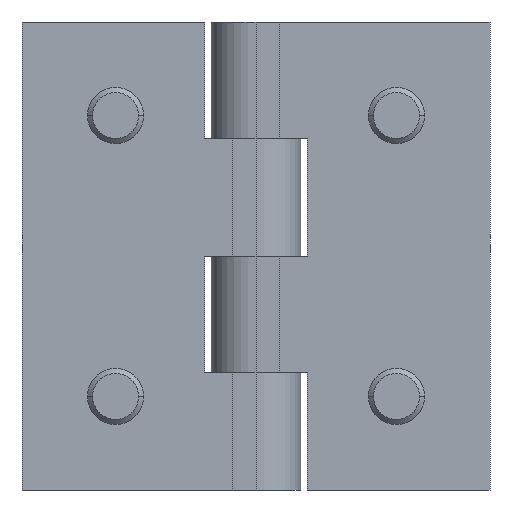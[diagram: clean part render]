
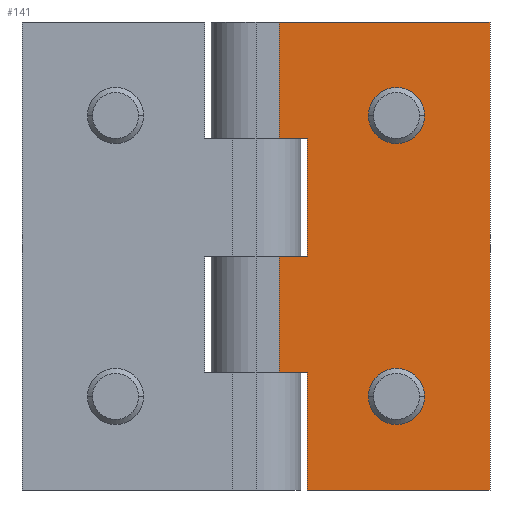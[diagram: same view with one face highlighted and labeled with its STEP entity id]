
A CAD part, front view. The second image highlights one B-rep face of the part: STEP entity #141.
In plain terms, the highlighted planar face has unit normal (0, -1, 0).
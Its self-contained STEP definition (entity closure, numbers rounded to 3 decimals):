
#141=ADVANCED_FACE('',(#245,#246,#247),#248,.T.);
#245=FACE_BOUND('',#422,.T.);
#246=FACE_BOUND('',#423,.T.);
#247=FACE_OUTER_BOUND('',#424,.T.);
#248=PLANE('',#425);
#422=EDGE_LOOP('',(#699,#700));
#423=EDGE_LOOP('',(#701,#702));
#424=EDGE_LOOP('',(#703,#704,#705,#706,#707,#708,#709,#710,#711,#712));
#425=AXIS2_PLACEMENT_3D('',#713,#714,#715);
#699=ORIENTED_EDGE('',*,*,#1250,.T.);
#700=ORIENTED_EDGE('',*,*,#1265,.T.);
#701=ORIENTED_EDGE('',*,*,#1243,.T.);
#702=ORIENTED_EDGE('',*,*,#1268,.T.);
#703=ORIENTED_EDGE('',*,*,#1272,.T.);
#704=ORIENTED_EDGE('',*,*,#1293,.T.);
#705=ORIENTED_EDGE('',*,*,#1290,.T.);
#706=ORIENTED_EDGE('',*,*,#1294,.F.);
#707=ORIENTED_EDGE('',*,*,#1295,.T.);
#708=ORIENTED_EDGE('',*,*,#1296,.T.);
#709=ORIENTED_EDGE('',*,*,#1297,.T.);
#710=ORIENTED_EDGE('',*,*,#1298,.T.);
#711=ORIENTED_EDGE('',*,*,#1299,.T.);
#712=ORIENTED_EDGE('',*,*,#1300,.F.);
#713=CARTESIAN_POINT('',(25.0,0.0,0.0));
#714=DIRECTION('',(0.0,-1.0,0.0));
#715=DIRECTION('',(1.0,0.0,0.0));
#1243=EDGE_CURVE('',#1462,#1460,#1463,.T.);
#1250=EDGE_CURVE('',#1475,#1473,#1476,.T.);
#1265=EDGE_CURVE('',#1473,#1475,#1499,.T.);
#1268=EDGE_CURVE('',#1460,#1462,#1502,.T.);
#1272=EDGE_CURVE('',#1509,#1507,#1510,.T.);
#1290=EDGE_CURVE('',#1545,#1543,#1546,.T.);
#1293=EDGE_CURVE('',#1507,#1545,#1549,.T.);
#1294=EDGE_CURVE('',#1550,#1543,#1551,.T.);
#1295=EDGE_CURVE('',#1550,#1552,#1553,.T.);
#1296=EDGE_CURVE('',#1552,#1554,#1555,.T.);
#1297=EDGE_CURVE('',#1554,#1556,#1557,.T.);
#1298=EDGE_CURVE('',#1556,#1558,#1559,.T.);
#1299=EDGE_CURVE('',#1558,#1560,#1561,.T.);
#1300=EDGE_CURVE('',#1509,#1560,#1562,.T.);
#1460=VERTEX_POINT('',#1816);
#1462=VERTEX_POINT('',#1819);
#1463=CIRCLE('',#1820,3.0);
#1473=VERTEX_POINT('',#1833);
#1475=VERTEX_POINT('',#1836);
#1476=CIRCLE('',#1837,3.0);
#1499=CIRCLE('',#1865,3.0);
#1502=CIRCLE('',#1868,3.0);
#1507=VERTEX_POINT('',#1874);
#1509=VERTEX_POINT('',#1877);
#1510=LINE('',#1878,#1879);
#1543=VERTEX_POINT('',#1926);
#1545=VERTEX_POINT('',#1929);
#1546=LINE('',#1930,#1931);
#1549=LINE('',#1936,#1937);
#1550=VERTEX_POINT('',#1938);
#1551=LINE('',#1939,#1940);
#1552=VERTEX_POINT('',#1941);
#1553=LINE('',#1942,#1943);
#1554=VERTEX_POINT('',#1944);
#1555=LINE('',#1945,#1946);
#1556=VERTEX_POINT('',#1947);
#1557=LINE('',#1948,#1949);
#1558=VERTEX_POINT('',#1950);
#1559=LINE('',#1951,#1952);
#1560=VERTEX_POINT('',#1953);
#1561=LINE('',#1954,#1955);
#1562=LINE('',#1956,#1957);
#1816=CARTESIAN_POINT('',(12.0,0.0,10.0));
#1819=CARTESIAN_POINT('',(18.0,0.,10.0));
#1820=AXIS2_PLACEMENT_3D('',#2335,#2336,#2337);
#1833=CARTESIAN_POINT('',(12.0,0.,40.0));
#1836=CARTESIAN_POINT('',(18.0,0.,40.0));
#1837=AXIS2_PLACEMENT_3D('',#2348,#2349,#2350);
#1865=AXIS2_PLACEMENT_3D('',#2383,#2384,#2385);
#1868=AXIS2_PLACEMENT_3D('',#2392,#2393,#2394);
#1874=CARTESIAN_POINT('',(5.5,0.0,37.5));
#1877=CARTESIAN_POINT('',(2.5,0.0,37.5));
#1878=CARTESIAN_POINT('',(9.0,0.0,37.5));
#1879=VECTOR('',#2400,1.0);
#1926=CARTESIAN_POINT('',(2.5,0.0,25.0));
#1929=CARTESIAN_POINT('',(5.5,0.0,25.0));
#1930=CARTESIAN_POINT('',(9.0,0.0,25.0));
#1931=VECTOR('',#2422,1.0);
#1936=CARTESIAN_POINT('',(5.5,0.0,15.625));
#1937=VECTOR('',#2425,1.0);
#1938=CARTESIAN_POINT('',(2.5,0.0,12.5));
#1939=CARTESIAN_POINT('',(2.5,0.0,0.0));
#1940=VECTOR('',#2426,1.0);
#1941=CARTESIAN_POINT('',(5.5,0.0,12.5));
#1942=CARTESIAN_POINT('',(9.0,0.0,12.5));
#1943=VECTOR('',#2427,1.0);
#1944=CARTESIAN_POINT('',(5.5,0.0,0.0));
#1945=CARTESIAN_POINT('',(5.5,0.0,3.125));
#1946=VECTOR('',#2428,1.0);
#1947=CARTESIAN_POINT('',(25.0,0.0,0.0));
#1948=CARTESIAN_POINT('',(2.5,0.0,0.0));
#1949=VECTOR('',#2429,1.0);
#1950=CARTESIAN_POINT('',(25.0,0.0,50.0));
#1951=CARTESIAN_POINT('',(25.0,0.0,0.0));
#1952=VECTOR('',#2430,1.0);
#1953=CARTESIAN_POINT('',(2.5,0.0,50.0));
#1954=CARTESIAN_POINT('',(2.5,0.0,50.0));
#1955=VECTOR('',#2431,1.0);
#1956=CARTESIAN_POINT('',(2.5,0.0,0.0));
#1957=VECTOR('',#2432,1.0);
#2335=CARTESIAN_POINT('',(15.0,0.0,10.0));
#2336=DIRECTION('',(0.0,1.0,0.0));
#2337=DIRECTION('',(-1.0,0.0,0.));
#2348=CARTESIAN_POINT('',(15.0,0.,40.0));
#2349=DIRECTION('',(0.0,1.0,0.0));
#2350=DIRECTION('',(-1.0,0.0,0.));
#2383=CARTESIAN_POINT('',(15.0,0.,40.0));
#2384=DIRECTION('',(0.0,1.0,0.0));
#2385=DIRECTION('',(-1.0,0.0,0.));
#2392=CARTESIAN_POINT('',(15.0,0.0,10.0));
#2393=DIRECTION('',(0.0,1.0,0.0));
#2394=DIRECTION('',(-1.0,0.0,0.));
#2400=DIRECTION('',(1.0,0.0,0.0));
#2422=DIRECTION('',(-1.0,0.0,0.0));
#2425=DIRECTION('',(0.0,0.0,-1.0));
#2426=DIRECTION('',(0.0,0.0,1.0));
#2427=DIRECTION('',(1.0,0.0,0.0));
#2428=DIRECTION('',(0.0,0.0,-1.0));
#2429=DIRECTION('',(1.0,0.0,0.0));
#2430=DIRECTION('',(0.0,0.0,1.0));
#2431=DIRECTION('',(-1.0,0.0,0.0));
#2432=DIRECTION('',(0.0,0.0,1.0));
